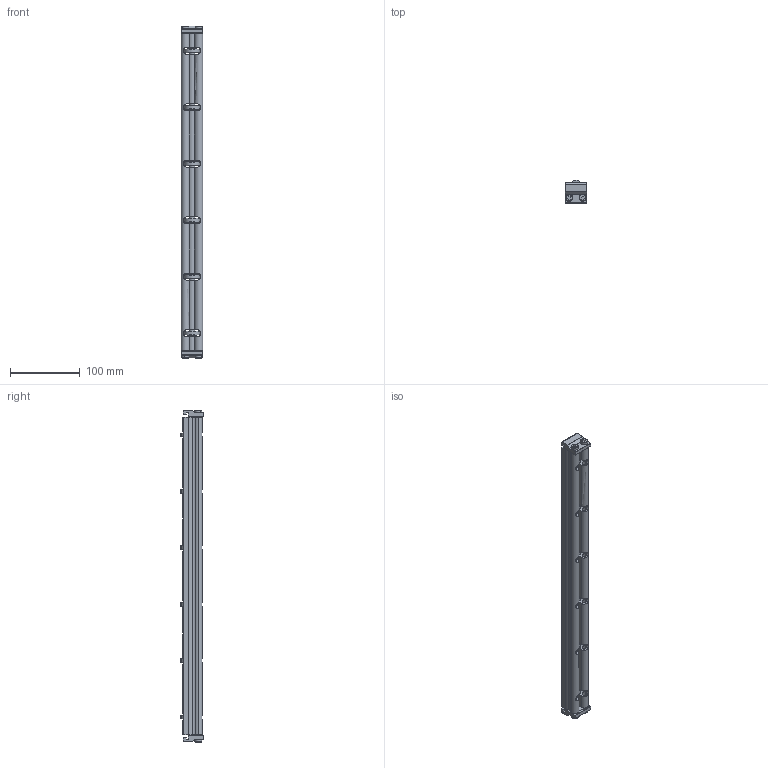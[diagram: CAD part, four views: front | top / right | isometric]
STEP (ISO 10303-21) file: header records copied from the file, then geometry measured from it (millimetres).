
FILE_DESCRIPTION((''),'2;1');
FILE_NAME('206523-18_ASM','2023-02-27T',('jenni.wallner'),(''),'PRO/ENGINEER BY PARAMETRIC TECHNOLOGY CORPORATION, 2012420','PRO/ENGINEER BY PARAMETRIC TECHNOLOGY CORPORATION, 2012420','');
FILE_SCHEMA(('CONFIG_CONTROL_DESIGN'));
Length unit declared in the file: inch
Products named in the file (7): 240826; 2410WW_241018; 9506XXM_950616M; 205977_205978_205979_205978; 2436WW_243618; ASM0001_ASM; 206523-18_ASM
Assembly tree (15 placements, depth 3):
  206523-18_ASM
    ASM0001_ASM
      240826  x6
      2410WW_241018
      9506XXM_950616M  x4
      205977_205978_205979_205978  x2
      2436WW_243618
Bounding box: 30.89 x 33.01 x 477.75 mm (x, y, z)
Volume: 229798.3 mm3; surface area: 137841.6 mm2
Topology: 14 solids, 14 shells, 464 faces, 1282 edges, 842 vertices
Faces by surface type: cylinder 206, plane 166, cone 68, torus 24
Entity records: 10926 total; most frequent: CARTESIAN_POINT 2709, ORIENTED_EDGE 1746, DIRECTION 1727, EDGE_CURVE 873, AXIS2_PLACEMENT_3D 655, VERTEX_POINT 580, VECTOR 417, LINE 417
